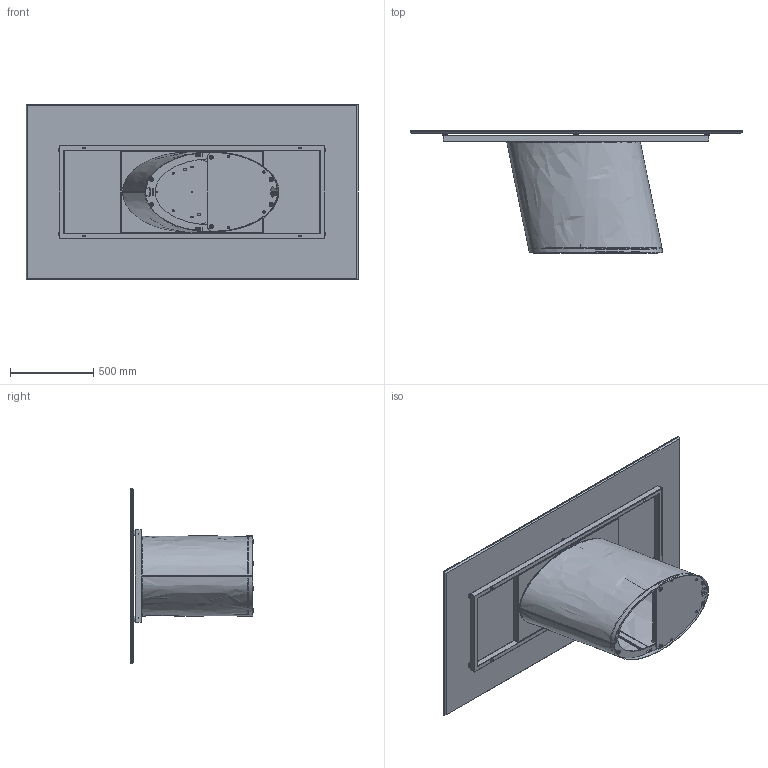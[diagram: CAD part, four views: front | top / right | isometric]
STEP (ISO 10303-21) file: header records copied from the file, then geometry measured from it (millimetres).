
FILE_DESCRIPTION (( 'STEP AP203' ), '1' );
FILE_NAME ('DO21C.STEP', '2024-08-06T13:08:42', ( '' ), ( '' ), 'SwSTEP 2.0', 'SolidWorks 2022', '' );
FILE_SCHEMA (( 'CONFIG_CONTROL_DESIGN' ));
Length unit declared in the file: millimetre
Products named in the file (20): K2XCMXX-00-Piani Rettangolari in ceramica_2000 x 1060; DOB000000_07-00-lamiera guscio sx_Default<A macchina>; piedino dorado; DOB000000_08-00-Zavorra inferiore_Default<A macchina>; DOB000000_04-00-contrapesso filettato_Default<A macchina>; DO21C; DOB000000-00-DORADO BASE GREZZO; DOB000000_02-00-barra rettangoalre di supporto_Default<A macchina>; COLLO TELAIO UNIVERSALE TTAV01 CON FERRAMENTA_MTG TOP CRISTALLO VERNICIATO-CERAMICA; barra filettata H.72cm_barra; M8xXXmm_M8X30mm; TTAV01-05-TELAIO UNIVERSALE X TAVOLI 180 240cm; DOB000000_01-00-piastra superiore _Default<A macchina>; DOB000000_06-00-Lamiera guscio dx_Default<A macchina>; TTAV01_02-05-VASSOIO IRRIGIDIMENTO TELAIO UNIVERSALE; 434070-00-PIEDINO TPV GOMMA NERO D. 30x8max18_filo estetico; DOB000000_03-00-Piastra  inferiore_Default<A macchina>; TTAV01_01-05-TELAIO UNIVERSALE X TAVOLI 180 240cm; nut_M8_M8; DOB000000_05-00-Zavorra intenra del dorado_Default<A macchina>
Assembly tree (40 placements, depth 4):
  DO21C
    DOB000000-00-DORADO BASE GREZZO
      DOB000000_08-00-Zavorra inferiore_Default<A macchina>
      DOB000000_04-00-contrapesso filettato_Default<A macchina>
      DOB000000_05-00-Zavorra intenra del dorado_Default<A macchina>  x4
      DOB000000_01-00-piastra superiore _Default<A macchina>
      DOB000000_07-00-lamiera guscio sx_Default<A macchina>
      DOB000000_02-00-barra rettangoalre di supporto_Default<A macchina>  x4
      DOB000000_03-00-Piastra  inferiore_Default<A macchina>
      DOB000000_06-00-Lamiera guscio dx_Default<A macchina>
      M8xXXmm_M8X30mm  x4
      nut_M8_M8  x2
      piedino dorado  x6
      barra filettata H.72cm_barra  x2
    COLLO TELAIO UNIVERSALE TTAV01 CON FERRAMENTA_MTG TOP CRISTALLO VERNICIATO-CERAMICA
      TTAV01-05-TELAIO UNIVERSALE X TAVOLI 180 240cm
        TTAV01_02-05-VASSOIO IRRIGIDIMENTO TELAIO UNIVERSALE
        TTAV01_01-05-TELAIO UNIVERSALE X TAVOLI 180 240cm
      434070-00-PIEDINO TPV GOMMA NERO D. 30x8max18_filo estetico  x6
    K2XCMXX-00-Piani Rettangolari in ceramica_2000 x 1060
Bounding box: 2000 x 738 x 1060 mm (x, y, z)
Volume: 45883820 mm3; surface area: 15805683.7 mm2
Topology: 50 solids, 50 shells, 1118 faces, 2712 edges, 1708 vertices
Faces by surface type: cylinder 474, plane 418, torus 100, cone 92, bspline 26, sphere 8
Entity records: 26903 total; most frequent: CARTESIAN_POINT 7886, DIRECTION 3519, ORIENTED_EDGE 3308, EDGE_CURVE 1654, AXIS2_PLACEMENT_3D 1297, VERTEX_POINT 1066, VECTOR 925, LINE 925
